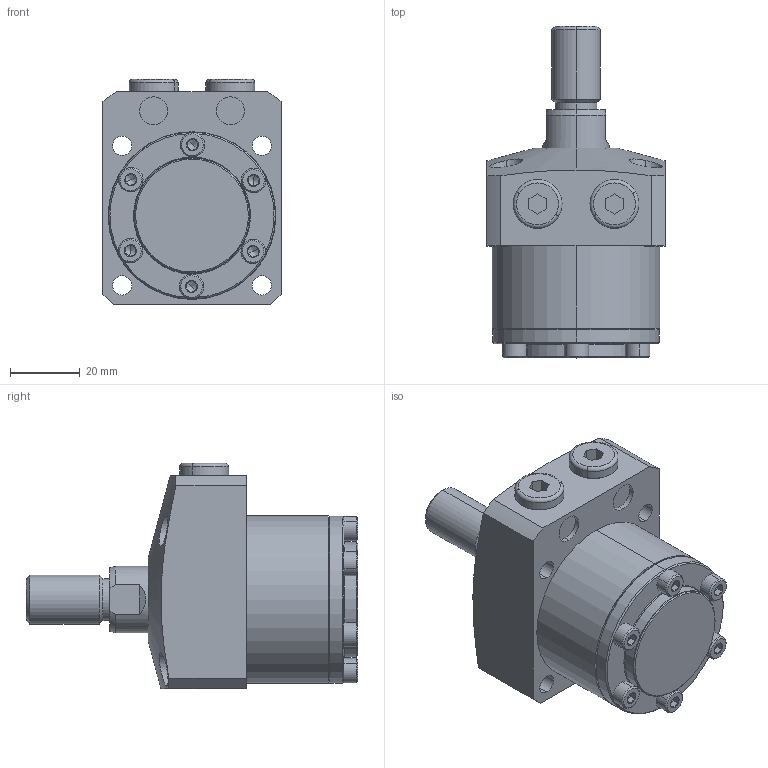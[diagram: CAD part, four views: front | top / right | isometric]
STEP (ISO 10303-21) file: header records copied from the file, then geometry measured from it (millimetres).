
FILE_DESCRIPTION (( 'STEP AP203' ), '1' );
FILE_NAME ('680480-CT-022.STEP', '2019-11-06T04:43:29', ( '微软用户' ), ( '微软中国' ), 'SwSTEP 2.0', 'SolidWorks 2014', '' );
FILE_SCHEMA (( 'CONFIG_CONTROL_DESIGN' ));
Length unit declared in the file: millimetre
Products named in the file (6): 葩璃 680480-CA-22-1^680480-CT-022; 葩璃 680480-CA-15-3^680480-CT-022; 葩璃 680480-CA-15-4^680480-CT-022; 葩璃 680480-CA-15-5^680480-CT-022; 葩璃 680480-22-12^680480-CT-022; 680480-CT-022
Assembly tree (11 placements, depth 2):
  680480-CT-022
    葩璃 680480-CA-22-1^680480-CT-022
    葩璃 680480-CA-15-3^680480-CT-022
    葩璃 680480-CA-15-4^680480-CT-022  x6
    葩璃 680480-CA-15-5^680480-CT-022  x2
    葩璃 680480-22-12^680480-CT-022
Bounding box: 51 x 95 x 64.5 mm (x, y, z)
Volume: 136294.3 mm3; surface area: 30329 mm2
Topology: 11 solids, 11 shells, 342 faces, 668 edges, 365 vertices
Faces by surface type: plane 139, cone 97, cylinder 90, torus 16
Entity records: 5549 total; most frequent: CARTESIAN_POINT 1137, DIRECTION 839, ORIENTED_EDGE 684, AXIS2_PLACEMENT_3D 350, EDGE_CURVE 342, VERTEX_POINT 208, EDGE_LOOP 198, CIRCLE 175
